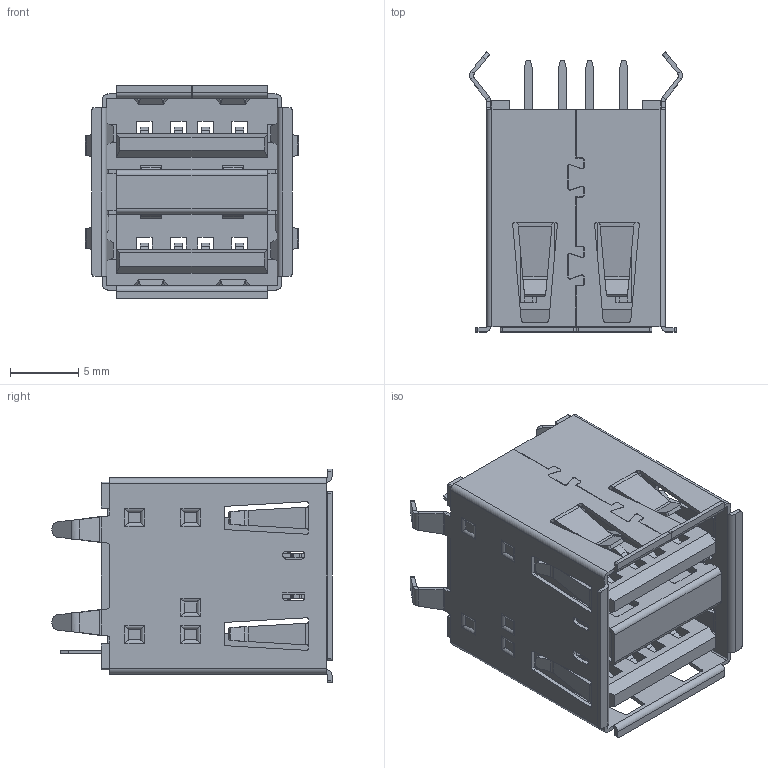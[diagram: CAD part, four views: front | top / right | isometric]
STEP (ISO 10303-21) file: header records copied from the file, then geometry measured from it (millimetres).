
FILE_DESCRIPTION(('FreeCAD Model'),'2;1');
FILE_NAME('C:/Users/Metaltex-99/Desktop/USB-ACD.step', '2020-12-09T12:22:50',('Engenharia Metaltex'),('Metaltex'), 'Open CASCADE STEP processor 7.3','FreeCAD','Unknown');
FILE_SCHEMA(('AUTOMOTIVE_DESIGN { 1 0 10303 214 1 1 1 1 }'));
Products named in the file (1): USB-ACD
Bounding box: 15.6 x 20.5 x 15.65 mm (x, y, z)
Volume: 1447.8 mm3; surface area: 4848.7 mm2
Topology: 11 solids, 11 shells, 1281 faces, 3438 edges, 2188 vertices
Faces by surface type: plane 789, cylinder 412, bspline 80
Entity records: 93948 total; most frequent: CARTESIAN_POINT 25494, DIRECTION 12481, LINE 8370, VECTOR 8370, ORIENTED_EDGE 6876, PCURVE 6876, DEFINITIONAL_REPRESENTATION 6876, EDGE_CURVE 3438
